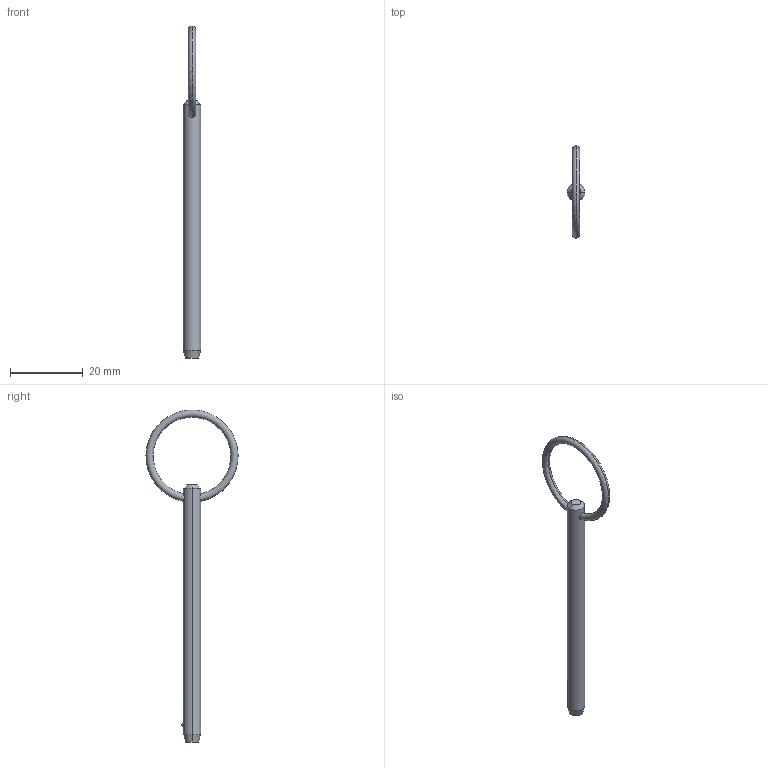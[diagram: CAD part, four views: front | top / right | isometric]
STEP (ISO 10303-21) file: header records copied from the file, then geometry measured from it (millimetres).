
FILE_DESCRIPTION (( 'STEP AP203' ), '1' );
FILE_NAME ('P1250.018-240.step', '2019-07-29T19:34:02', ( '' ), ( '' ), 'SwSTEP 2.0', 'SolidWorks 2017', '' );
FILE_SCHEMA (( 'CONFIG_CONTROL_DESIGN' ));
Length unit declared in the file: millimetre
Products named in the file (1): P1250.018-240
Bounding box: 4.76 x 25.4 x 91.48 mm (x, y, z)
Volume: 1462.8 mm3; surface area: 1502.2 mm2
Topology: 1 solids, 1 shells, 12 faces, 28 edges, 17 vertices
Faces by surface type: cone 4, torus 2, sphere 2, cylinder 2, plane 2
Entity records: 471 total; most frequent: CARTESIAN_POINT 138, DIRECTION 56, ORIENTED_EDGE 48, AXIS2_PLACEMENT_3D 25, EDGE_CURVE 24, EDGE_LOOP 15, VERTEX_POINT 15, ADVANCED_FACE 12
